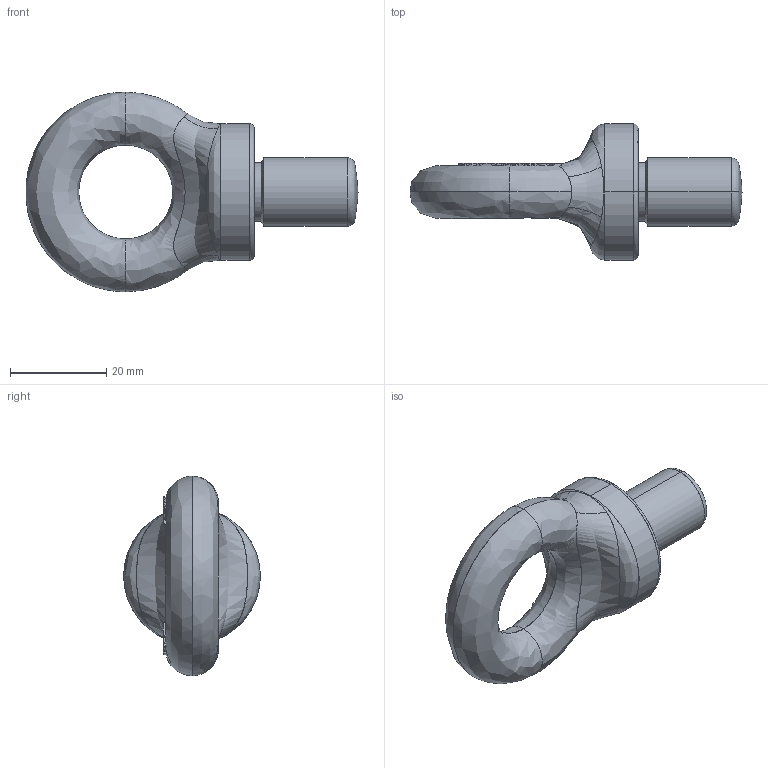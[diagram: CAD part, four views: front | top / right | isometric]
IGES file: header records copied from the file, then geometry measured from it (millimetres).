
Start section: SolidWorks IGES FILE using analytic representation for surfaces
Global section: file name: C:\Documents and Settings\Townley Workstation\Desktop\tooling\Townley products\Eye bolts\EBB500\Model\Finished part drawings\EBB500.IGS; native system: SolidWorks 2004 by SolidWorks Corporation; preprocessor: Version 5.3; author: Townley Workstation; date: 091119.135245; units: millimetre
Bounding box: 69.02 x 28.38 x 41.5 mm (x, y, z)
Surface area: 5733.2 mm2 (no closed solid volume)
Topology: 0 solids, 0 shells, 211 faces, 2412 edges, 2410 vertices
Faces by surface type: bspline 203, revolution 8
